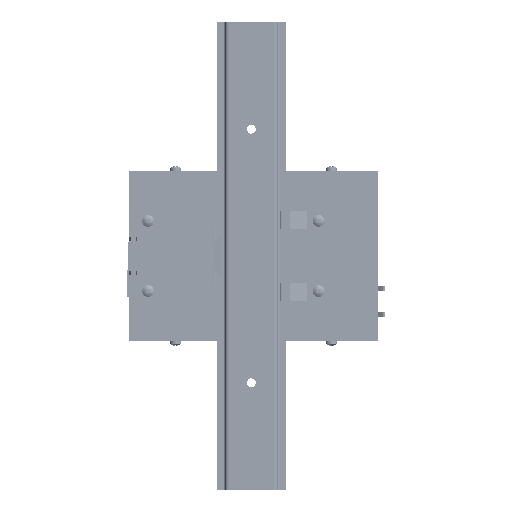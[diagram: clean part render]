
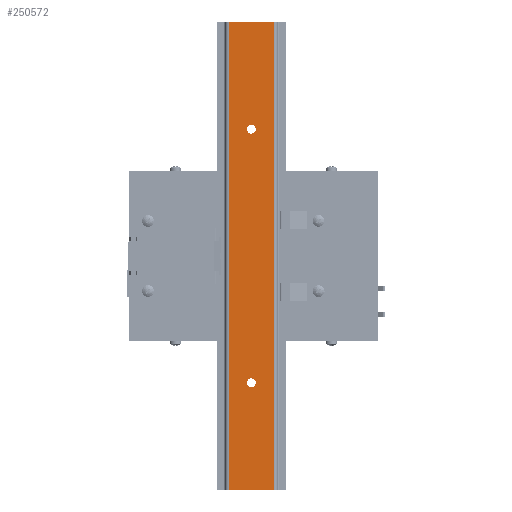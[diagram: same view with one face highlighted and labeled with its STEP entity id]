
A CAD part, front view. The second image highlights one B-rep face of the part: STEP entity #250572.
In plain terms, the highlighted planar face has unit normal (0, -1, 0).
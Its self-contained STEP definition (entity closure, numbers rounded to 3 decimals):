
#62963 = LINE ( 'NONE', #709737, #1106402 ) ;
#80082 = DIRECTION ( 'NONE',  ( 0., 0., 1. ) ) ;
#83635 = CARTESIAN_POINT ( 'NONE',  ( 0., -1., -65. ) ) ;
#88713 = DIRECTION ( 'NONE',  ( 0., -1., 0. ) ) ;
#105150 = CIRCLE ( 'NONE', #669574, 2.25 ) ;
#110982 = AXIS2_PLACEMENT_3D ( 'NONE', #83635, #790479, #185090 ) ;
#116289 = FACE_BOUND ( 'NONE', #1072496, .T. ) ;
#118376 = EDGE_CURVE ( 'NONE', #213157, #716567, #438069, .T. ) ;
#153110 = CARTESIAN_POINT ( 'NONE',  ( 0., -1., 65. ) ) ;
#164261 = LINE ( 'NONE', #254104, #337933 ) ;
#185090 = DIRECTION ( 'NONE',  ( 0., 0., -1. ) ) ;
#196043 = ORIENTED_EDGE ( 'NONE', *, *, #721592, .F. ) ;
#211399 = FACE_BOUND ( 'NONE', #591332, .T. ) ;
#213157 = VERTEX_POINT ( 'NONE', #525493 ) ;
#250572 = ADVANCED_FACE ( 'NONE', ( #116289, #211399, #1255011 ), #981589, .F. ) ;
#254104 = CARTESIAN_POINT ( 'NONE',  ( -12.5, -1., -120. ) ) ;
#254862 = DIRECTION ( 'NONE',  ( 0., 0., -1. ) ) ;
#289360 = VERTEX_POINT ( 'NONE', #490379 ) ;
#295748 = EDGE_CURVE ( 'NONE', #1308917, #492447, #62963, .T. ) ;
#304809 = VERTEX_POINT ( 'NONE', #1224108 ) ;
#304936 = AXIS2_PLACEMENT_3D ( 'NONE', #604676, #1311834, #706505 ) ;
#307057 = EDGE_CURVE ( 'NONE', #304809, #289360, #985202, .T. ) ;
#337933 = VECTOR ( 'NONE', #1168681, 1000. ) ;
#364994 = CARTESIAN_POINT ( 'NONE',  ( -11.7, -1., -120. ) ) ;
#375067 = CARTESIAN_POINT ( 'NONE',  ( -11.7, -1., 120. ) ) ;
#438069 = CIRCLE ( 'NONE', #110982, 2.25 ) ;
#441097 = CARTESIAN_POINT ( 'NONE',  ( 11.7, -1., 120. ) ) ;
#490379 = CARTESIAN_POINT ( 'NONE',  ( 0., -1., 67.25 ) ) ;
#492447 = VERTEX_POINT ( 'NONE', #441097 ) ;
#514026 = EDGE_CURVE ( 'NONE', #716567, #213157, #1232598, .T. ) ;
#525046 = VECTOR ( 'NONE', #1082165, 1000. ) ;
#525493 = CARTESIAN_POINT ( 'NONE',  ( 0., -1., -62.75 ) ) ;
#554462 = ORIENTED_EDGE ( 'NONE', *, *, #840947, .F. ) ;
#575651 = VERTEX_POINT ( 'NONE', #364994 ) ;
#590726 = AXIS2_PLACEMENT_3D ( 'NONE', #1290681, #685363, #80082 ) ;
#591332 = EDGE_LOOP ( 'NONE', ( #812138, #196043 ) ) ;
#604676 = CARTESIAN_POINT ( 'NONE',  ( 0., -1., 65. ) ) ;
#605373 = EDGE_CURVE ( 'NONE', #575651, #974474, #164261, .T. ) ;
#632788 = LINE ( 'NONE', #666863, #901745 ) ;
#650450 = ORIENTED_EDGE ( 'NONE', *, *, #118376, .F. ) ;
#666782 = CARTESIAN_POINT ( 'NONE',  ( 0., -1., -67.25 ) ) ;
#666863 = CARTESIAN_POINT ( 'NONE',  ( 11.7, -1., 120. ) ) ;
#669574 = AXIS2_PLACEMENT_3D ( 'NONE', #153110, #860253, #254862 ) ;
#685363 = DIRECTION ( 'NONE',  ( 0., 1., 0. ) ) ;
#693933 = CARTESIAN_POINT ( 'NONE',  ( 0., -1., -65. ) ) ;
#706505 = DIRECTION ( 'NONE',  ( 0., 0., -1. ) ) ;
#709737 = CARTESIAN_POINT ( 'NONE',  ( -12.5, -1., 120. ) ) ;
#716567 = VERTEX_POINT ( 'NONE', #666782 ) ;
#721592 = EDGE_CURVE ( 'NONE', #289360, #304809, #105150, .T. ) ;
#729948 = ORIENTED_EDGE ( 'NONE', *, *, #295748, .F. ) ;
#790479 = DIRECTION ( 'NONE',  ( 0., -1., 0. ) ) ;
#795577 = DIRECTION ( 'NONE',  ( 0., 0., -1. ) ) ;
#801446 = AXIS2_PLACEMENT_3D ( 'NONE', #693933, #88713, #795577 ) ;
#812138 = ORIENTED_EDGE ( 'NONE', *, *, #307057, .F. ) ;
#822955 = ORIENTED_EDGE ( 'NONE', *, *, #514026, .F. ) ;
#840947 = EDGE_CURVE ( 'NONE', #492447, #974474, #632788, .T. ) ;
#860253 = DIRECTION ( 'NONE',  ( 0., -1., 0. ) ) ;
#901745 = VECTOR ( 'NONE', #1272182, 1000. ) ;
#933548 = ORIENTED_EDGE ( 'NONE', *, *, #605373, .T. ) ;
#974474 = VERTEX_POINT ( 'NONE', #1159983 ) ;
#981589 = PLANE ( 'NONE',  #590726 ) ;
#985202 = CIRCLE ( 'NONE', #304936, 2.25 ) ;
#986445 = EDGE_LOOP ( 'NONE', ( #933548, #554462, #729948, #1253386 ) ) ;
#997226 = DIRECTION ( 'NONE',  ( 1., 0., 0. ) ) ;
#1072496 = EDGE_LOOP ( 'NONE', ( #822955, #650450 ) ) ;
#1082165 = DIRECTION ( 'NONE',  ( 0., 0., -1. ) ) ;
#1106402 = VECTOR ( 'NONE', #997226, 1000. ) ;
#1159983 = CARTESIAN_POINT ( 'NONE',  ( 11.7, -1., -120. ) ) ;
#1168681 = DIRECTION ( 'NONE',  ( 1., 0., 0. ) ) ;
#1204922 = LINE ( 'NONE', #375067, #525046 ) ;
#1224108 = CARTESIAN_POINT ( 'NONE',  ( 0., -1., 62.75 ) ) ;
#1232598 = CIRCLE ( 'NONE', #801446, 2.25 ) ;
#1233183 = EDGE_CURVE ( 'NONE', #1308917, #575651, #1204922, .T. ) ;
#1253386 = ORIENTED_EDGE ( 'NONE', *, *, #1233183, .T. ) ;
#1255011 = FACE_OUTER_BOUND ( 'NONE', #986445, .T. ) ;
#1258518 = CARTESIAN_POINT ( 'NONE',  ( -11.7, -1., 120. ) ) ;
#1272182 = DIRECTION ( 'NONE',  ( 0., 0., -1. ) ) ;
#1290681 = CARTESIAN_POINT ( 'NONE',  ( -12.5, -1., 120. ) ) ;
#1308917 = VERTEX_POINT ( 'NONE', #1258518 ) ;
#1311834 = DIRECTION ( 'NONE',  ( 0., -1., 0. ) ) ;
